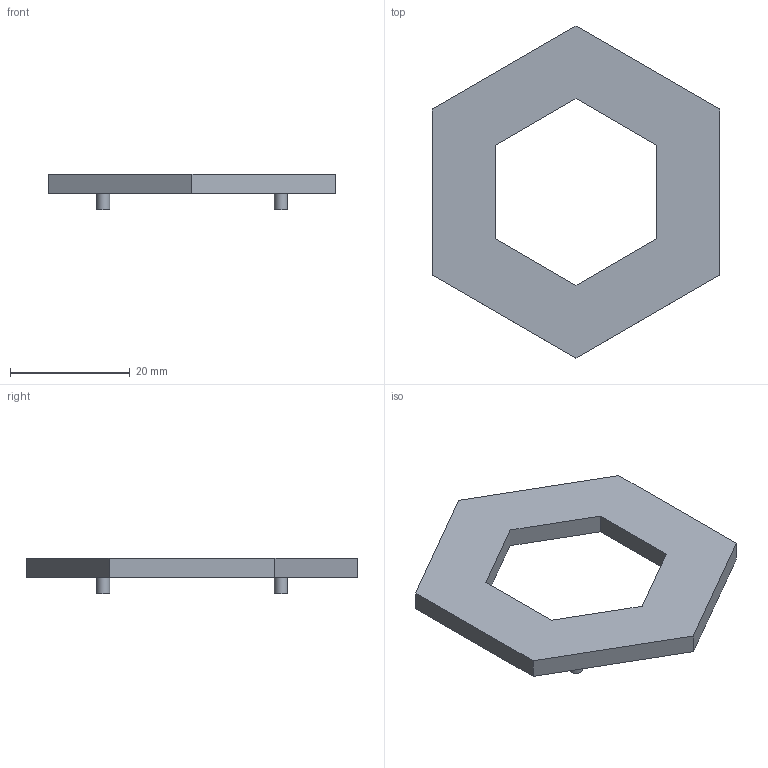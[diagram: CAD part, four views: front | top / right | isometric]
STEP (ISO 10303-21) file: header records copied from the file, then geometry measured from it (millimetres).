
FILE_DESCRIPTION(('Open CASCADE Model'),'2;1');
FILE_NAME('Open CASCADE Shape Model','2026-09-17T20:09:27',('Author'),( 'Open CASCADE'),'Open CASCADE STEP processor 7.7','Open CASCADE 7.7' ,'Unknown');
FILE_SCHEMA(('AUTOMOTIVE_DESIGN { 1 0 10303 214 1 1 1 1 }'));
Length unit declared in the file: millimetre
Products named in the file (1): Open CASCADE STEP translator 7.7 5
Bounding box: 48 x 55.43 x 5.9 mm (x, y, z)
Volume: 4405.8 mm3; surface area: 3634 mm2
Topology: 1 solids, 1 shells, 22 faces, 48 edges, 32 vertices
Faces by surface type: plane 18, cylinder 4
Full cylindrical faces by diameter (mm): 2.2 x4
Entity records: 1214 total; most frequent: CARTESIAN_POINT 223, DIRECTION 174, LINE 104, VECTOR 104, ORIENTED_EDGE 96, PCURVE 96, DEFINITIONAL_REPRESENTATION 96, EDGE_CURVE 48
